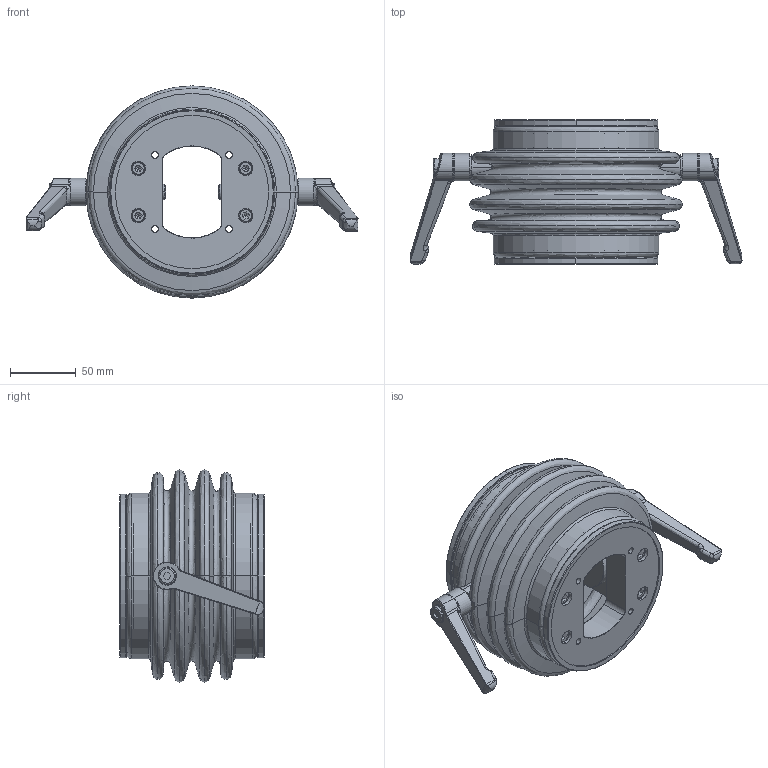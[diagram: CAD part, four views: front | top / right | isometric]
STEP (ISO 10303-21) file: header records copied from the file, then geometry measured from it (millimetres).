
FILE_DESCRIPTION (( 'STEP AP203' ), '1' );
FILE_NAME ('sce-sa45ia.stp', '2018-07-30T15:33:34', ( '' ), ( '' ), 'SwSTEP 2.0', 'SolidWorks 2016', '' );
FILE_SCHEMA (( 'CONFIG_CONTROL_DESIGN' ));
Length unit declared in the file: inch
Products named in the file (11): sce-sa45ia; 83079_Standard; 93126_Standard; 94170_Standard; 95015_Standard; 94225_Standard; 94169_Standard; 93340_Standard; 84015_Standard; 94226_Standard; 84014_Standard
Assembly tree (23 placements, depth 2):
  sce-sa45ia
    83079_Standard  x2
    94170_Standard
    94225_Standard  x2
    93340_Standard  x8
    93126_Standard  x2
    95015_Standard  x2
    94169_Standard  x2
    84015_Standard
    94226_Standard  x2
    84014_Standard
Bounding box: 253.43 x 110 x 162 mm (x, y, z)
Volume: 793205.3 mm3; surface area: 319529.7 mm2
Topology: 23 solids, 23 shells, 937 faces, 2106 edges, 1224 vertices
Faces by surface type: bspline 328, cylinder 280, plane 241, cone 88
Entity records: 25774 total; most frequent: CARTESIAN_POINT 12542, ORIENTED_EDGE 2566, DIRECTION 2335, EDGE_CURVE 1283, AXIS2_PLACEMENT_3D 997, VERTEX_POINT 763, CIRCLE 638, EDGE_LOOP 638
